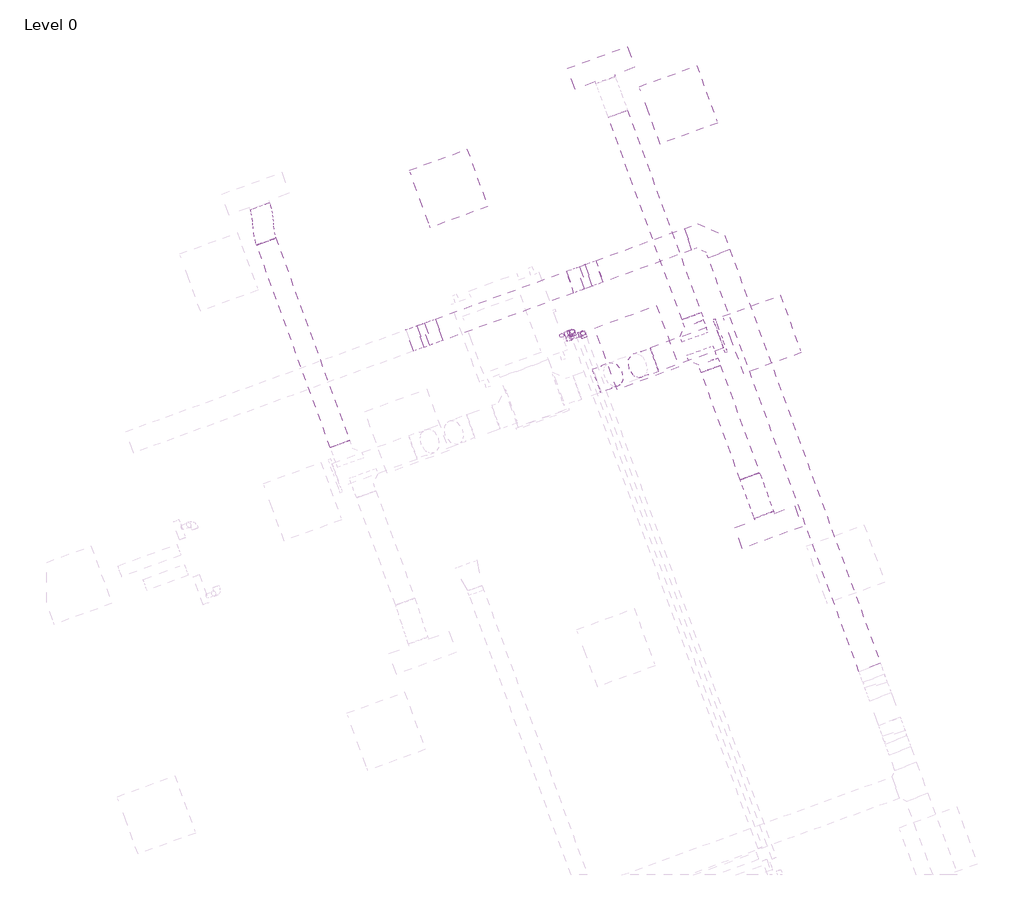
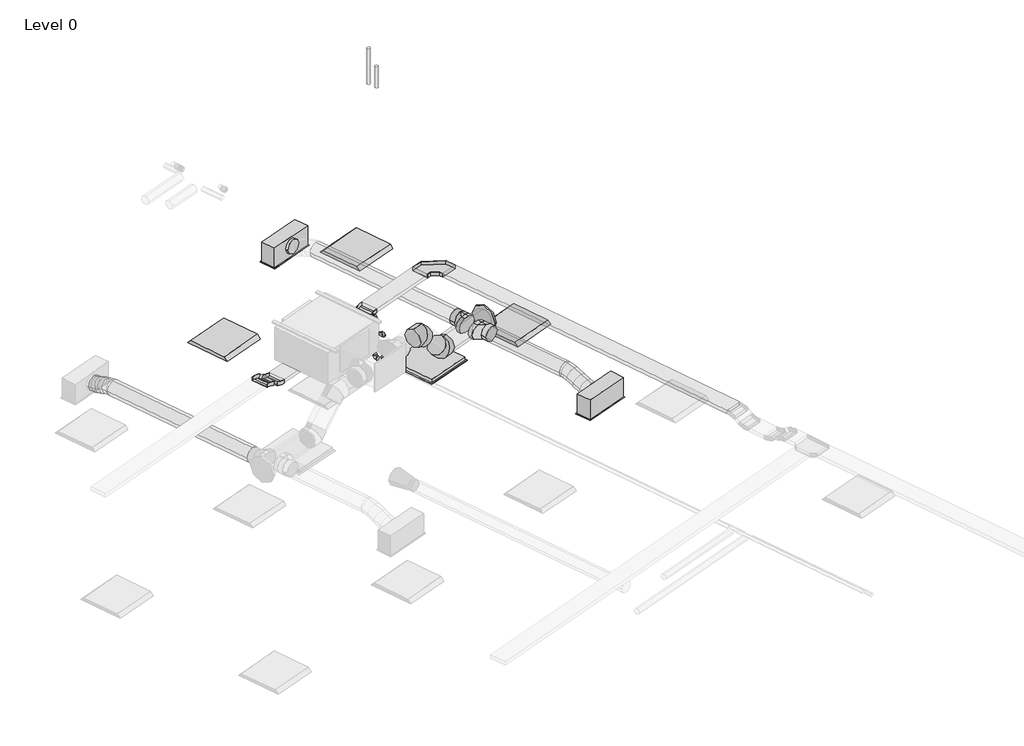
# One storey, part 33 of 34: 6 duct segments, 6 pipe fittings, 6 pipe segments, 5 cable carrier fittings, 5 cable carrier segments, 5 duct fittings, 3 air terminals, 3 light fixtures.
"""IFC4 building model written with IfcOpenShell, lengths in millimetres."""

from ifc_helpers import new_model, si_unit, point, frame, frame_2d, origin, place, context, project, spatial, polyline, circle_curve, ellipse_curve, trimmed, segment, composite_curve, outline, extrude, transform, mapped, element, save
from ifc_brep_helpers import plane_surface, cylinder_surface, advanced_brep
from components import return_grille_rectangular_hosted_standard_7b12617c, supply_diffuser_with_plenum_linear_slot_hosted_8c379eed, cable_tray_horizontal_bend_standard_fd552271, cable_tray_vertical_inside_bend_standard_9a66f55b, cable_tray_vertical_outside_bend_standard_4df2047e, dw144_round_blank_end_standard_e3d0b58b, dw144_round_segmented_bend_slip_joint_standard_636bd9c1, dw144_round_shoe_branch_slip_joint1_standard_2_15a2edd8, light_fixture_1c7c1157, light_fixture_b730b5ca, elbow_threaded_gmi_standard_b4aa7741, socket_reducing_threaded_gmi_standard_0a4076b8

model = new_model("IFC4")

# Units and contexts
model_context = context("Model", 3, world=origin())
ifc_project = project(units=[si_unit("LENGTHUNIT", "METRE", prefix="MILLI")], contexts=[model_context])

# Site, building, storey
site = spatial("IfcSite", under=ifc_project)
building = spatial("IfcBuilding", under=site)
storey = spatial("IfcBuildingStorey", under=building, Name="Level 0", Elevation=0.0)

# Air terminals
placement = place(None, origin())
return_grille_rectangular_hosted_standard_shape = return_grille_rectangular_hosted_standard_7b12617c(model_context)
element("IfcAirTerminal", 1, ObjectType="Return Grille - Rectangular - Hosted : Standard", at=placement, inside=storey, context=model_context, shape_type="MappedRepresentation", body=[
    mapped(return_grille_rectangular_hosted_standard_shape, transform((59670.7999959, 22099.2481143, 2800.0), x_axis=(0.939692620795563, 0.34202014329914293, 0.0), y_axis=(0.34202014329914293, -0.939692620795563, 0.0), z_axis=(0.0, 0.0, -1.0))),
])
supply_diffuser_with_plenum_linear_slot_hosted_shape = supply_diffuser_with_plenum_linear_slot_hosted_8c379eed(model_context)
element("IfcAirTerminal", 2, ObjectType="Supply Diffuser with Plenum - Linear Slot - Hosted : 24\" x 8\"-200 In Inlet  4-Slot", at=placement, inside=storey, context=model_context, shape_type="MappedRepresentation", body=[
    mapped(supply_diffuser_with_plenum_linear_slot_hosted_shape, transform((59322.1555846, 24845.631912, 2800.0), x_axis=(-0.9396926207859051, -0.3420201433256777, 0.0), y_axis=(-0.3420201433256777, 0.9396926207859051, 0.0), z_axis=(0.0, 0.0, -1.0))),
])
element("IfcAirTerminal", 3, ObjectType="Supply Diffuser with Plenum - Linear Slot - Hosted : 24\" x 8\"-200 In Inlet  4-Slot", at=placement, inside=storey, context=model_context, shape_type="MappedRepresentation", body=[
    mapped(supply_diffuser_with_plenum_linear_slot_hosted_shape, transform((60963.8522726, 20335.1073322, 2800.0), x_axis=(0.939692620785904, 0.342020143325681, 0.0), y_axis=(0.342020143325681, -0.939692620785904, 0.0), z_axis=(0.0, 0.0, -1.0))),
])

# Cable carrier fittings
cable_tray_horizontal_bend_standard_shape = cable_tray_horizontal_bend_standard_fd552271(model_context)
element("IfcCableCarrierFitting", 4, ObjectType="Cable Tray Horizontal Bend : Standard", at=placement, inside=storey, context=model_context, shape_type="MappedRepresentation", body=[
    mapped(cable_tray_horizontal_bend_standard_shape, transform((60397.5181523, 23244.3261172, 3248.9627355), x_axis=(-0.3420201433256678, 0.9396926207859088, 0.0), y_axis=(-0.9396926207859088, -0.3420201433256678, 0.0), z_axis=(0.0, 0.0, 1.0))),
])
cable_tray_vertical_inside_bend_standard_shape = cable_tray_vertical_inside_bend_standard_9a66f55b(model_context)
element("IfcCableCarrierFitting", 5, ObjectType="Cable Tray Vertical Inside Bend : Standard", at=placement, inside=storey, context=model_context, shape_type="MappedRepresentation", body=[
    mapped(cable_tray_vertical_inside_bend_standard_shape, transform((59079.7468169, 22764.6965755, 3148.9627355), x_axis=(0.9396926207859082, 0.34202014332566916, 0.0), y_axis=(0.0, 0.0, 1.0), z_axis=(0.34202014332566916, -0.9396926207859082, 0.0))),
])
element("IfcCableCarrierFitting", 6, ObjectType="Cable Tray Vertical Inside Bend : Standard", at=placement, inside=storey, context=model_context, shape_type="MappedRepresentation", body=[
    mapped(cable_tray_vertical_inside_bend_standard_shape, transform((57668.2710843, 22250.9614225, 3148.9627355), x_axis=(0.8137976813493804, 0.2961981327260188, -0.4999999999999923), y_axis=(0.46984631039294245, 0.1710100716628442, 0.8660254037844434), z_axis=(0.34202014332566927, -0.9396926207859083, 0.0))),
])
cable_tray_vertical_outside_bend_standard_shape = cable_tray_vertical_outside_bend_standard_4df2047e(model_context)
element("IfcCableCarrierFitting", 7, ObjectType="Cable Tray Vertical Outside Bend : Standard", at=placement, inside=storey, context=model_context, shape_type="MappedRepresentation", body=[
    mapped(cable_tray_vertical_outside_bend_standard_shape, transform((59242.5063531, 22823.9362021, 3248.9627355), x_axis=(-0.939692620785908, -0.34202014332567, 0.0), y_axis=(0.0, 0.0, -1.0000000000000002), z_axis=(0.34202014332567, -0.939692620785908, 0.0))),
])
element("IfcCableCarrierFitting", 8, ObjectType="Cable Tray Vertical Outside Bend : Standard", at=placement, inside=storey, context=model_context, shape_type="MappedRepresentation", body=[
    mapped(cable_tray_vertical_outside_bend_standard_shape, transform((57505.5115481, 22191.721796, 3248.9627355), x_axis=(-0.8137976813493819, -0.2961981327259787, 0.5000000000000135), y_axis=(-0.46984631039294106, -0.17101007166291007, -0.866025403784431), z_axis=(0.34202014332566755, -0.9396926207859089, 0.0))),
])

# Cable carrier segments
element("IfcCableCarrierSegment", 9, ObjectType="Perforated Cable Tray", at=placement, inside=storey, context=model_context, shape_type="SweptSolid", body=[
    extrude(outline(polyline([(62063.4626623, 18996.1091889), (61852.0318226, 18919.1546567), (60373.0325165, 22982.6718536), (60584.4633562, 23059.6263859), (62063.4626623, 18996.1091889)])), frame((0.0, 0.0, 3223.9627355), z_axis=(0.0, 0.0, 1.0), x_axis=(1.0, 0.0, 0.0)), (0.0, 0.0, 1.0), 50.0),
])
element("IfcCableCarrierSegment", 10, ObjectType="Perforated Cable Tray", at=placement, inside=storey, context=model_context, shape_type="SweptSolid", body=[
    extrude(outline(polyline([(60135.8638887, 23268.811753), (60212.818421, 23057.3809133), (59343.931089, 22741.1317875), (59266.9765567, 22952.5626272), (60135.8638887, 23268.811753)])), frame((0.0, 0.0, 3223.9627355), z_axis=(0.0, 0.0, 1.0), x_axis=(1.0, 0.0, 0.0)), (0.0, 0.0, 1.0), 50.0),
])
element("IfcCableCarrierSegment", 11, ObjectType="Perforated Cable Tray", at=placement, inside=storey, context=model_context, shape_type="SweptSolid", body=[
    extrude(outline(polyline([(0.0, -225.0), (0.0, 0.0), (66.0254038, 0.0), (66.0254037, -225.0), (0.0, -225.0)])), frame((59238.2156691, 22702.6545214, 3193.8184513), z_axis=(-0.46984631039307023, -0.1710100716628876, 0.8660254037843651), x_axis=(-0.8137976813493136, -0.29619813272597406, -0.5000000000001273)), (0.0, 0.0, 1.0), 50.0),
])
element("IfcCableCarrierSegment", 12, ObjectType="Perforated Cable Tray", at=placement, inside=storey, context=model_context, shape_type="SweptSolid", body=[
    extrude(outline(polyline([(58978.322081, 22847.5009901), (59055.2766133, 22636.0701504), (57769.6958202, 22168.157008), (57692.7412879, 22379.5878476), (58978.322081, 22847.5009901)])), frame((0.0, 0.0, 3123.9627355), z_axis=(0.0, 0.0, 1.0), x_axis=(1.0, 0.0, 0.0)), (0.0, 0.0, 1.0), 50.0),
])
element("IfcCableCarrierSegment", 13, ObjectType="Perforated Cable Tray", at=placement, inside=storey, context=model_context, shape_type="SweptSolid", body=[
    extrude(outline(polyline([(0.0, -224.9999999), (0.0, 0.0), (66.0254038, 1e-07), (66.0254038, -224.9999999), (0.0, -224.9999999)])), frame((57640.4880848, 22121.1292383, 3160.8057494), z_axis=(0.4698463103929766, 0.17101007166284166, 0.8660254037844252), x_axis=(-0.8137976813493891, -0.29619813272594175, 0.5000000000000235)), (0.0, 0.0, 1.0), 50.0),
])

# Duct fittings
dw144_round_blank_end_standard_shape = dw144_round_blank_end_standard_e3d0b58b(model_context)
element("IfcDuctFitting", 14, ObjectType="DW144 Round Blank End : Standard", at=placement, inside=storey, context=model_context, shape_type="MappedRepresentation", body=[
    mapped(dw144_round_blank_end_standard_shape, transform((60480.1698786, 22212.391139, 3072.2088531), x_axis=(0.9396926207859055, 0.3420201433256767, 0.0), y_axis=(-0.3420201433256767, 0.9396926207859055, 0.0), z_axis=(0.0, 0.0, 1.0))),
])
dw144_round_segmented_bend_slip_joint_standard_shape = dw144_round_segmented_bend_slip_joint_standard_636bd9c1(model_context)
element("IfcDuctFitting", 15, ObjectType="DW144 Round Segmented Bend - Slip Joint : Standard", at=placement, inside=storey, context=model_context, shape_type="MappedRepresentation", body=[
    mapped(dw144_round_segmented_bend_slip_joint_standard_shape, transform((59747.3782824, 21945.6768101, 3072.2088531), x_axis=(0.6644630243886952, 0.24184476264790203, -0.7071067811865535), y_axis=(0.6644630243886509, 0.2418447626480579, 0.7071067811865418), z_axis=(0.3420201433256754, -0.939692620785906, 0.0))),
])
element("IfcDuctFitting", 16, ObjectType="DW144 Round Segmented Bend - Slip Joint : Standard", at=placement, inside=storey, context=model_context, shape_type="MappedRepresentation", body=[
    mapped(dw144_round_segmented_bend_slip_joint_standard_shape, transform((59373.9762464, 21809.7695836, 3469.575), x_axis=(0.9396926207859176, 0.3420201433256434, 0.0), y_axis=(0.0, 0.0, -1.0), z_axis=(-0.3420201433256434, 0.9396926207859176, 0.0))),
])
dw144_round_shoe_branch_slip_joint1_standard_2_shape = dw144_round_shoe_branch_slip_joint1_standard_2_15a2edd8(model_context)
element("IfcDuctFitting", 17, ObjectType="DW144 Round Shoe Branch - Slip Joint1 : Standard 2", at=placement, inside=storey, context=model_context, shape_type="MappedRepresentation", body=[
    mapped(dw144_round_shoe_branch_slip_joint1_standard_2_shape, transform((60261.1722773, 22265.7047523, 3072.2088531), x_axis=(-0.3420201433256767, 0.9396926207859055, 0.0), y_axis=(0.9396926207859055, 0.3420201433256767, 0.0), z_axis=(0.0, 0.0, -1.0))),
])
element("IfcDuctFitting", 18, ObjectType="DW144 Round Shoe Branch - Slip Joint1 : Standard 2", at=placement, inside=storey, context=model_context, shape_type="MappedRepresentation", body=[
    mapped(dw144_round_shoe_branch_slip_joint1_standard_2_shape, transform((60346.6773131, 22030.7815971, 3072.2088531), x_axis=(0.3420201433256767, -0.9396926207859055, 0.0), y_axis=(0.9396926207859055, 0.3420201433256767, 0.0), z_axis=(0.0, 0.0, 1.0))),
])

# Duct segments
element("IfcDuctSegment", 19, ObjectType="DW144 Segmented Bend / Shoe Branch", at=placement, inside=storey, context=model_context, shape_type="SweptSolid", body=[
    extrude(outline(composite_curve([segment(trimmed(circle_curve(frame_2d((0.0, -125.0)), 125.0), [point((-125.0, -125.0))], [point((0.0, 0.0))], False, "CARTESIAN"), True, "CONTINUOUS"), segment(trimmed(circle_curve(frame_2d((0.0, -125.0)), 125.0), [point((0.0, 0.0))], [point((125.0, -125.0))], False, "CARTESIAN"), True, "CONTINUOUS"), segment(trimmed(circle_curve(frame_2d((0.0, -125.0)), 125.0), [point((125.0, -125.0))], [point((0.0, -250.0))], False, "CARTESIAN"), True, "CONTINUOUS"), segment(trimmed(circle_curve(frame_2d((0.0, -125.0)), 125.0), [point((0.0, -250.0))], [point((-125.0, -125.0))], False, "CARTESIAN"), True, "CONTINUOUS")], self_intersect=False)), frame((59844.6866394, 21981.0941556, 2947.2088531), z_axis=(0.9396926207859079, 0.3420201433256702, 0.0), x_axis=(0.3420201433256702, -0.9396926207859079, 0.0)), (0.0, 0.0, 1.0), 676.267138),
])
element("IfcDuctSegment", 20, ObjectType="DW144 Segmented Bend / Shoe Branch", at=placement, inside=storey, context=model_context, shape_type="SweptSolid", body=[
    extrude(outline(composite_curve([segment(trimmed(circle_curve(frame_2d((0.0, 100.0)), 100.0), [point((100.0, 100.0))], [point((0.0, 0.0))], False, "CARTESIAN"), True, "CONTINUOUS"), segment(trimmed(circle_curve(frame_2d((0.0, 100.0)), 100.0), [point((0.0, 0.0))], [point((-100.0, 100.0))], False, "CARTESIAN"), True, "CONTINUOUS"), segment(trimmed(circle_curve(frame_2d((0.0, 100.0)), 100.0), [point((-100.0, 100.0))], [point((0.0, 200.0))], False, "CARTESIAN"), True, "CONTINUOUS"), segment(trimmed(circle_curve(frame_2d((0.0, 100.0)), 100.0), [point((0.0, 200.0))], [point((100.0, 100.0))], False, "CARTESIAN"), True, "CONTINUOUS")], self_intersect=False)), frame((60209.8692558, 22406.6586454, 3172.2088531), z_axis=(-0.3420201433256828, 0.9396926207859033, 0.0), x_axis=(0.9396926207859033, 0.3420201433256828, 0.0)), (0.0, 0.0, 1.0), 2117.1993191),
])
element("IfcDuctSegment", 21, ObjectType="DW144 Segmented Bend / Shoe Branch", at=placement, inside=storey, context=model_context, shape_type="SweptSolid", body=[
    extrude(outline(composite_curve([segment(trimmed(circle_curve(frame_2d((0.0, -100.0)), 100.0), [point((-99.9999999, -100.0))], [point((0.0, 0.0))], False, "CARTESIAN"), True, "CONTINUOUS"), segment(trimmed(circle_curve(frame_2d((0.0, -100.0)), 100.0), [point((0.0, 0.0))], [point((100.0, -100.0))], False, "CARTESIAN"), True, "CONTINUOUS"), segment(trimmed(circle_curve(frame_2d((0.0, -100.0)), 100.0), [point((100.0, -100.0))], [point((0.0, -200.0))], False, "CARTESIAN"), True, "CONTINUOUS"), segment(trimmed(circle_curve(frame_2d((0.0, -100.0)), 100.0), [point((0.0, -200.0))], [point((-99.9999999, -100.0))], False, "CARTESIAN"), True, "CONTINUOUS")], self_intersect=False)), frame((60782.0007844, 20834.7401896, 2972.2088531), z_axis=(-0.3420201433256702, 0.9396926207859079, 0.0), x_axis=(0.9396926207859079, 0.3420201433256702, 0.0)), (0.0, 0.0, 1.0), 1122.8006809),
])
element("IfcDuctSegment", 22, ObjectType="DW144 Segmented Bend / Shoe Branch", at=placement, inside=storey, context=model_context, shape_type="SweptSolid", body=[
    extrude(outline(composite_curve([segment(trimmed(circle_curve(frame_2d((0.0, -100.0)), 100.0), [point((-100.0, -100.0))], [point((0.0, 0.0))], False, "CARTESIAN"), True, "CONTINUOUS"), segment(trimmed(circle_curve(frame_2d((0.0, -100.0)), 100.0), [point((0.0, 0.0))], [point((99.9999999, -100.0))], False, "CARTESIAN"), True, "CONTINUOUS"), segment(trimmed(circle_curve(frame_2d((0.0, -100.0)), 100.0), [point((99.9999999, -100.0))], [point((0.0, -200.0))], False, "CARTESIAN"), True, "CONTINUOUS"), segment(trimmed(circle_curve(frame_2d((0.0, -100.0)), 100.0), [point((0.0, -200.0))], [point((-100.0, -100.0))], False, "CARTESIAN"), True, "CONTINUOUS")], self_intersect=False)), frame((56758.4236669, 21150.4351859, 2972.2088531), z_axis=(-0.3420201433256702, 0.9396926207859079, 0.0), x_axis=(0.9396926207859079, 0.3420201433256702, 0.0)), (0.0, 0.0, 1.0), 2117.1993191),
])
element("IfcDuctSegment", 23, ObjectType="Flex - Round", at=placement, inside=storey, context=model_context, shape_type="AdvancedBrep", body=[
    advanced_brep(
    [(60875.9700465, 20868.9422039, 3072.2088531), (60782.0007844, 20834.7401896, 2972.2088531), (60688.0315224, 20800.5381753, 3072.2088531), (60782.0007844, 20834.7401896, 3172.2088531), (60882.0280653, 20852.2979342, 3072.2088531), (60784.3796055, 20828.2044324, 2972.2088531), (60694.0895411, 20783.8939055, 3072.2088531), (60791.7380009, 20807.9874073, 3172.2088531), (61013.7351382, 20490.4357254, 2954.4), (60919.7658761, 20456.233711, 3054.4), (60825.796614, 20422.0316967, 2954.4), (60919.7658761, 20456.233711, 2854.4), (60910.9523954, 20772.8289904, 3053.8012198), (60806.8015614, 20766.600615, 2957.9393734), (60723.0138712, 20704.4249618, 3053.8012198), (60827.1647052, 20710.6533371, 3149.6630662), (60944.8525924, 20679.6889646, 3013.3044266), (60837.9473613, 20681.0282329, 2920.7329518), (60756.9140682, 20611.284936, 3013.3044266), (60863.8192992, 20609.9456677, 3105.8759013), (60978.7527894, 20586.5489389, 2972.8076333), (60874.6019553, 20580.3205635, 2876.9457869), (60790.8142652, 20518.1449102, 2972.8076333), (60894.9650992, 20524.3732856, 3068.6694797), (61007.6771194, 20507.0799951, 2954.4), (60910.0286597, 20482.9864933, 2854.4), (60819.7385953, 20438.6759664, 2954.4), (60917.387055, 20462.7694682, 3054.4)],
    [
        (0, 1, circle_curve(frame((60782.0007844, 20834.7401896, 3072.2088531), z_axis=(-0.3420201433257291, 0.9396926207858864, 0.0), x_axis=(0.9396926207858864, 0.3420201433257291, 0.0)), 100.0)),
        (1, 2, circle_curve(frame((60782.0007844, 20834.7401896, 3072.2088531), z_axis=(-0.3420201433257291, 0.9396926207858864, 0.0), x_axis=(0.9396926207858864, 0.3420201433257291, 0.0)), 100.0)),
        (2, 3, circle_curve(frame((60782.0007844, 20834.7401896, 3072.2088531), z_axis=(-0.3420201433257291, 0.9396926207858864, 0.0), x_axis=(0.9396926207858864, 0.3420201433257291, 0.0)), 100.0)),
        (3, 0, circle_curve(frame((60782.0007844, 20834.7401896, 3072.2088531), z_axis=(-0.3420201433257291, 0.9396926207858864, 0.0), x_axis=(0.9396926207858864, 0.3420201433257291, 0.0)), 100.0)),
        (0, 4),
        (4, 5, ellipse_curve(frame((60788.0588032, 20818.0959199, 3072.2088531), z_axis=(-0.34005825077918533, 0.9343023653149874, 0.1069554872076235), x_axis=(-0.03658093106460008, 0.10050528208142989, -0.9942638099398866)), 100.5769284, 100.0)),
        (5, 1),
        (5, 6, ellipse_curve(frame((60788.0588032, 20818.0959199, 3072.2088531), z_axis=(-0.34005825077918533, 0.9343023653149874, 0.1069554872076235), x_axis=(-0.03658093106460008, 0.10050528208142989, -0.9942638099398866)), 100.5769284, 100.0)),
        (6, 2),
        (6, 7, ellipse_curve(frame((60788.0588032, 20818.0959199, 3072.2088531), z_axis=(-0.34005825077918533, 0.9343023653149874, 0.1069554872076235), x_axis=(-0.03658093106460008, 0.10050528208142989, -0.9942638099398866)), 100.5769284, 100.0)),
        (7, 3),
        (7, 4, ellipse_curve(frame((60788.0588032, 20818.0959199, 3072.2088531), z_axis=(-0.34005825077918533, 0.9343023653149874, 0.1069554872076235), x_axis=(-0.03658093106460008, 0.10050528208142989, -0.9942638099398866)), 100.5769284, 100.0)),
        (8, 9, circle_curve(frame((60919.7658761, 20456.233711, 2954.4), z_axis=(0.3420201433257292, -0.9396926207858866, 0.0), x_axis=(0.9396926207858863, 0.34202014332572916, 0.0)), 100.0)),
        (9, 10, circle_curve(frame((60919.7658761, 20456.233711, 2954.4), z_axis=(0.3420201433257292, -0.9396926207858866, 0.0), x_axis=(0.9396926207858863, 0.34202014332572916, 0.0)), 100.0)),
        (10, 11, circle_curve(frame((60919.7658761, 20456.233711, 2954.4), z_axis=(0.3420201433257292, -0.9396926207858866, 0.0), x_axis=(0.9396926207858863, 0.34202014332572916, 0.0)), 100.0)),
        (11, 8, circle_curve(frame((60919.7658761, 20456.233711, 2954.4), z_axis=(0.3420201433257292, -0.9396926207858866, 0.0), x_axis=(0.9396926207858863, 0.34202014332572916, 0.0)), 100.0)),
        (4, 12),
        (12, 13, ellipse_curve(frame((60816.9831333, 20738.6269761, 3053.8012198), z_axis=(-0.32663313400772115, 0.897417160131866, 0.2965691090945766), x_axis=(-0.10143260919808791, 0.2786838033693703, -0.9550113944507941)), 100.3776991, 100.0)),
        (13, 5),
        (13, 14, ellipse_curve(frame((60816.9831333, 20738.6269761, 3053.8012198), z_axis=(-0.32663313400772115, 0.897417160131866, 0.2965691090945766), x_axis=(-0.10143260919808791, 0.2786838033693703, -0.9550113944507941)), 100.3776991, 100.0)),
        (14, 6),
        (14, 15, ellipse_curve(frame((60816.9831333, 20738.6269761, 3053.8012198), z_axis=(-0.32663313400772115, 0.897417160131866, 0.2965691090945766), x_axis=(-0.10143260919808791, 0.2786838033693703, -0.9550113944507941)), 100.3776991, 100.0)),
        (15, 7),
        (15, 12, ellipse_curve(frame((60816.9831333, 20738.6269761, 3053.8012198), z_axis=(-0.32663313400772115, 0.897417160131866, 0.2965691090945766), x_axis=(-0.10143260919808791, 0.2786838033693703, -0.9550113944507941)), 100.3776991, 100.0)),
        (12, 16),
        (16, 17, circle_curve(frame((60850.8833303, 20645.4869503, 3013.3044266), z_axis=(-0.31661309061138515, 0.8698873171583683, 0.3782224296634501), x_axis=(0.939692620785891, 0.34202014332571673, 0.0)), 100.0)),
        (17, 13),
        (17, 18, circle_curve(frame((60850.8833303, 20645.4869503, 3013.3044266), z_axis=(-0.31661309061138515, 0.8698873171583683, 0.3782224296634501), x_axis=(0.939692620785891, 0.34202014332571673, 0.0)), 100.0)),
        (18, 14),
        (18, 19, circle_curve(frame((60850.8833303, 20645.4869503, 3013.3044266), z_axis=(-0.31661309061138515, 0.8698873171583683, 0.3782224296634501), x_axis=(0.939692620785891, 0.34202014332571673, 0.0)), 100.0)),
        (19, 15),
        (19, 16, circle_curve(frame((60850.8833303, 20645.4869503, 3013.3044266), z_axis=(-0.31661309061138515, 0.8698873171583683, 0.3782224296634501), x_axis=(0.939692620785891, 0.34202014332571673, 0.0)), 100.0)),
        (16, 20),
        (20, 21, ellipse_curve(frame((60884.7835273, 20552.3469245, 2972.8076333), z_axis=(-0.3266331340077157, 0.897417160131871, 0.29656910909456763), x_axis=(0.10143260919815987, -0.2786838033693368, 0.9550113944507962)), 100.3776991, 100.0)),
        (21, 17),
        (21, 22, ellipse_curve(frame((60884.7835273, 20552.3469245, 2972.8076333), z_axis=(-0.3266331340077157, 0.897417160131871, 0.29656910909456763), x_axis=(0.10143260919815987, -0.2786838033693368, 0.9550113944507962)), 100.3776991, 100.0)),
        (22, 18),
        (22, 23, ellipse_curve(frame((60884.7835273, 20552.3469245, 2972.8076333), z_axis=(-0.3266331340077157, 0.897417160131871, 0.29656910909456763), x_axis=(0.10143260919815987, -0.2786838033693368, 0.9550113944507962)), 100.3776991, 100.0)),
        (23, 19),
        (23, 20, ellipse_curve(frame((60884.7835273, 20552.3469245, 2972.8076333), z_axis=(-0.3266331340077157, 0.897417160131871, 0.29656910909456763), x_axis=(0.10143260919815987, -0.2786838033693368, 0.9550113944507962)), 100.3776991, 100.0)),
        (20, 24),
        (24, 25, ellipse_curve(frame((60913.7078574, 20472.8779808, 2954.4), z_axis=(-0.3400582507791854, 0.9343023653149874, 0.10695548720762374), x_axis=(0.03658093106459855, -0.10050528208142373, 0.9942638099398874)), 100.5769284, 100.0)),
        (25, 21),
        (25, 26, ellipse_curve(frame((60913.7078574, 20472.8779808, 2954.4), z_axis=(-0.3400582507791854, 0.9343023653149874, 0.10695548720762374), x_axis=(0.03658093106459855, -0.10050528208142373, 0.9942638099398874)), 100.5769284, 100.0)),
        (26, 22),
        (26, 27, ellipse_curve(frame((60913.7078574, 20472.8779808, 2954.4), z_axis=(-0.3400582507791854, 0.9343023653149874, 0.10695548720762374), x_axis=(0.03658093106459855, -0.10050528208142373, 0.9942638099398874)), 100.5769284, 100.0)),
        (27, 23),
        (27, 24, ellipse_curve(frame((60913.7078574, 20472.8779808, 2954.4), z_axis=(-0.3400582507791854, 0.9343023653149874, 0.10695548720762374), x_axis=(0.03658093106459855, -0.10050528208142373, 0.9942638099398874)), 100.5769284, 100.0)),
        (24, 8),
        (11, 25),
        (10, 26),
        (9, 27),
    ],
    [
        plane_surface(frame((60782.0007844, 20834.7401896, 2972.2088531), z_axis=(-0.3420201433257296, 0.9396926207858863, 0.0), x_axis=(0.9396926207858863, 0.3420201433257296, 0.0))),
        cylinder_surface(frame((60782.0007844, 20834.7401896, 3072.2088531), z_axis=(-0.3420201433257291, 0.9396926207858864, 0.0), x_axis=(0.9396926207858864, 0.3420201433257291, 0.0)), 100.0),
        plane_surface(frame((60919.7658761, 20456.233711, 2854.4), z_axis=(0.3420201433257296, -0.9396926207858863, 0.0), x_axis=(0.9396926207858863, 0.3420201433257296, 0.0))),
        cylinder_surface(frame((60788.0588032, 20818.0959199, 3072.2088531), z_axis=(-0.3341950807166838, 0.9181934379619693, 0.21268394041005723), x_axis=(0.9396926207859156, 0.342020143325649, 0.0)), 100.0),
        cylinder_surface(frame((60816.9831333, 20738.6269761, 3053.8012198), z_axis=(-0.31661309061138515, 0.8698873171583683, 0.3782224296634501), x_axis=(0.939692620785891, 0.34202014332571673, 0.0)), 100.0),
        cylinder_surface(frame((60850.8833303, 20645.4869503, 3013.3044266), z_axis=(-0.3166130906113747, 0.8698873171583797, 0.37822242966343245), x_axis=(0.9396926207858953, 0.3420201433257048, 0.0)), 100.0),
        cylinder_surface(frame((60884.7835273, 20552.3469245, 2972.8076333), z_axis=(-0.3341950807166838, 0.9181934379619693, 0.21268394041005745), x_axis=(0.9396926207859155, 0.3420201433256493, 0.0)), 100.0),
        cylinder_surface(frame((60913.7078574, 20472.8779808, 2954.4), z_axis=(-0.34202014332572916, 0.9396926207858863, 0.0), x_axis=(0.9396926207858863, 0.34202014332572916, 0.0)), 100.0),
    ],
    [
        (0, [[1, 2, 3, 4]]),
        (1, [[-1, 5, 6, 7]]),
        (1, [[-2, -7, 8, 9]]),
        (1, [[-3, -9, 10, 11]]),
        (1, [[-4, -11, 12, -5]]),
        (2, [[13, 14, 15, 16]]),
        (3, [[-6, 17, 18, 19]]),
        (3, [[-8, -19, 20, 21]]),
        (3, [[-10, -21, 22, 23]]),
        (3, [[-12, -23, 24, -17]]),
        (4, [[-18, 25, 26, 27]]),
        (4, [[-20, -27, 28, 29]]),
        (4, [[-22, -29, 30, 31]]),
        (4, [[-24, -31, 32, -25]]),
        (5, [[-26, 33, 34, 35]]),
        (5, [[-28, -35, 36, 37]]),
        (5, [[-30, -37, 38, 39]]),
        (5, [[-32, -39, 40, -33]]),
        (6, [[-34, 41, 42, 43]]),
        (6, [[-36, -43, 44, 45]]),
        (6, [[-38, -45, 46, 47]]),
        (6, [[-40, -47, 48, -41]]),
        (7, [[-42, 49, -16, 50]]),
        (7, [[-44, -50, -15, 51]]),
        (7, [[-46, -51, -14, 52]]),
        (7, [[-48, -52, -13, -49]]),
    ],
),
])
element("IfcDuctSegment", 24, ObjectType="Flex - Round", at=placement, inside=storey, context=model_context, shape_type="AdvancedBrep", body=[
    advanced_brep(
    [(55940.3295902, 23105.7497485, 3072.2088531), (56034.2988523, 23139.9517628, 2972.2088531), (56128.2681143, 23174.1537771, 3072.2088531), (56034.2988523, 23139.9517628, 3172.2088531), (55932.6991352, 23126.7142514, 3072.2088531), (56032.3145452, 23145.4036018, 2972.2088531), (56124.5004429, 23184.5053694, 3072.2088531), (56024.8850329, 23165.816019, 3172.2088531), (55878.3848809, 23455.0293673, 2954.4), (55972.354143, 23489.2313817, 3054.4), (56066.3234051, 23523.433396, 2954.4), (55972.354143, 23489.2313817, 2854.4), (55917.3295771, 23190.9348996, 3057.7411781), (56023.8255964, 23180.8740941, 2964.2180345), (56113.8382189, 23229.0567437, 3062.1722867), (56007.3421996, 23239.1175493, 3155.6954303), (55907.3100581, 23266.6974316, 3026.0114711), (56016.126005, 23239.0945077, 2939.8350497), (56105.4058666, 23292.8179241, 3035.4688025), (55996.5899197, 23320.4208481, 3121.645224), (55901.2471286, 23336.3652203, 2991.1400506), (56010.0630756, 23308.7622964, 2904.9636291), (56099.3429372, 23362.4857128, 3000.597382), (55990.5269903, 23390.0886367, 3086.7738035), (55892.8147764, 23400.1264007, 2964.4365665), (55999.3107957, 23390.0655952, 2870.9134228), (56089.3234182, 23438.2482449, 2968.867675), (55982.8273989, 23448.3090504, 3062.3908187), (55882.1525524, 23444.6777751, 2954.4), (55981.7679624, 23463.3671255, 2854.4), (56073.9538601, 23502.4688931, 2954.4), (55974.3384501, 23483.7795427, 3054.4)],
    [
        (0, 1, circle_curve(frame((56034.2988523, 23139.9517628, 3072.2088531), z_axis=(0.34202014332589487, -0.9396926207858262, 0.0), x_axis=(-0.9396926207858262, -0.34202014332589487, 0.0)), 100.0)),
        (1, 2, circle_curve(frame((56034.2988523, 23139.9517628, 3072.2088531), z_axis=(0.34202014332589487, -0.9396926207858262, 0.0), x_axis=(-0.9396926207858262, -0.34202014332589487, 0.0)), 100.0)),
        (2, 3, circle_curve(frame((56034.2988523, 23139.9517628, 3072.2088531), z_axis=(0.34202014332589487, -0.9396926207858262, 0.0), x_axis=(-0.9396926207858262, -0.34202014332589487, 0.0)), 100.0)),
        (3, 0, circle_curve(frame((56034.2988523, 23139.9517628, 3072.2088531), z_axis=(0.34202014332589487, -0.9396926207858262, 0.0), x_axis=(-0.9396926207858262, -0.34202014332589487, 0.0)), 100.0)),
        (0, 4),
        (4, 5, ellipse_curve(frame((56028.599789, 23155.6098104, 3072.2088531), z_axis=(0.2868145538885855, -0.9519007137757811, 0.10780743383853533), x_axis=(0.4718263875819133, 0.04242446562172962, -0.8806702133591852)), 100.746488, 100.0)),
        (5, 1),
        (5, 6, ellipse_curve(frame((56028.599789, 23155.6098104, 3072.2088531), z_axis=(0.2868145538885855, -0.9519007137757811, 0.10780743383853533), x_axis=(0.4718263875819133, 0.04242446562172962, -0.8806702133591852)), 100.746488, 100.0)),
        (6, 2),
        (6, 7, ellipse_curve(frame((56028.599789, 23155.6098104, 3072.2088531), z_axis=(0.2868145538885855, -0.9519007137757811, 0.10780743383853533), x_axis=(0.4718263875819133, 0.04242446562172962, -0.8806702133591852)), 100.746488, 100.0)),
        (7, 3),
        (7, 4, ellipse_curve(frame((56028.599789, 23155.6098104, 3072.2088531), z_axis=(0.2868145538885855, -0.9519007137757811, 0.10780743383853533), x_axis=(0.4718263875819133, 0.04242446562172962, -0.8806702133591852)), 100.746488, 100.0)),
        (8, 9, circle_curve(frame((55972.354143, 23489.2313817, 2954.4), z_axis=(-0.34202014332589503, 0.9396926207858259, 0.0), x_axis=(-0.9396926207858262, -0.3420201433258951, 0.0)), 100.0)),
        (9, 10, circle_curve(frame((55972.354143, 23489.2313817, 2954.4), z_axis=(-0.34202014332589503, 0.9396926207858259, 0.0), x_axis=(-0.9396926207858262, -0.3420201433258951, 0.0)), 100.0)),
        (10, 11, circle_curve(frame((55972.354143, 23489.2313817, 2954.4), z_axis=(-0.34202014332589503, 0.9396926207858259, 0.0), x_axis=(-0.9396926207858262, -0.3420201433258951, 0.0)), 100.0)),
        (11, 8, circle_curve(frame((55972.354143, 23489.2313817, 2954.4), z_axis=(-0.34202014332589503, 0.9396926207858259, 0.0), x_axis=(-0.9396926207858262, -0.3420201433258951, 0.0)), 100.0)),
        (4, 12),
        (12, 13, ellipse_curve(frame((56015.583898, 23209.9958217, 3059.9567324), z_axis=(0.1751260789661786, -0.9376352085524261, 0.30028498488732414), x_axis=(0.5236540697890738, -0.1695730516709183, -0.8348840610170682)), 100.5188435, 100.0)),
        (13, 5),
        (13, 14, ellipse_curve(frame((56015.583898, 23209.9958217, 3059.9567324), z_axis=(0.1751260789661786, -0.9376352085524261, 0.30028498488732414), x_axis=(0.5236540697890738, -0.1695730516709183, -0.8348840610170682)), 100.5188435, 100.0)),
        (14, 6),
        (14, 15, ellipse_curve(frame((56015.583898, 23209.9958217, 3059.9567324), z_axis=(0.1751260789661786, -0.9376352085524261, 0.30028498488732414), x_axis=(0.5236540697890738, -0.1695730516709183, -0.8348840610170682)), 100.5188435, 100.0)),
        (15, 7),
        (15, 12, ellipse_curve(frame((56015.583898, 23209.9958217, 3059.9567324), z_axis=(0.1751260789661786, -0.9376352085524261, 0.30028498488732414), x_axis=(0.5236540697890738, -0.1695730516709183, -0.8348840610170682)), 100.5188435, 100.0)),
        (12, 16),
        (16, 17, ellipse_curve(frame((56006.3579624, 23279.7576779, 3030.7401368), z_axis=(0.09941622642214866, -0.9042889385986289, 0.4151842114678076), x_axis=(0.5431382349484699, -0.30029372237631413, -0.7841074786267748)), 100.0802707, 100.0)),
        (17, 13),
        (17, 18, ellipse_curve(frame((56006.3579624, 23279.7576779, 3030.7401368), z_axis=(0.09941622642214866, -0.9042889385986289, 0.4151842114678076), x_axis=(0.5431382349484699, -0.30029372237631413, -0.7841074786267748)), 100.0802707, 100.0)),
        (18, 14),
        (18, 19, ellipse_curve(frame((56006.3579624, 23279.7576779, 3030.7401368), z_axis=(0.09941622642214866, -0.9042889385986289, 0.4151842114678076), x_axis=(0.5431382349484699, -0.30029372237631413, -0.7841074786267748)), 100.0802707, 100.0)),
        (19, 15),
        (19, 16, ellipse_curve(frame((56006.3579624, 23279.7576779, 3030.7401368), z_axis=(0.09941622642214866, -0.9042889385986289, 0.4151842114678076), x_axis=(0.5431382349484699, -0.30029372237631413, -0.7841074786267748)), 100.0802707, 100.0)),
        (16, 20),
        (20, 21, ellipse_curve(frame((56000.2950329, 23349.4254666, 2995.8687163), z_axis=(0.09941622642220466, -0.9042889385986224, 0.4151842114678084), x_axis=(-0.543138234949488, 0.3002937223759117, 0.7841074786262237)), 100.0802707, 100.0)),
        (21, 17),
        (21, 22, ellipse_curve(frame((56000.2950329, 23349.4254666, 2995.8687163), z_axis=(0.09941622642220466, -0.9042889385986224, 0.4151842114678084), x_axis=(-0.543138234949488, 0.3002937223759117, 0.7841074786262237)), 100.0802707, 100.0)),
        (22, 18),
        (22, 23, ellipse_curve(frame((56000.2950329, 23349.4254666, 2995.8687163), z_axis=(0.09941622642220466, -0.9042889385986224, 0.4151842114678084), x_axis=(-0.543138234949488, 0.3002937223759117, 0.7841074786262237)), 100.0802707, 100.0)),
        (23, 19),
        (23, 20, ellipse_curve(frame((56000.2950329, 23349.4254666, 2995.8687163), z_axis=(0.09941622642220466, -0.9042889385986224, 0.4151842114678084), x_axis=(-0.543138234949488, 0.3002937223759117, 0.7841074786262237)), 100.0802707, 100.0)),
        (20, 24),
        (24, 25, ellipse_curve(frame((55991.0690973, 23419.1873228, 2966.6521207), z_axis=(0.1751260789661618, -0.93763520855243, 0.3002849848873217), x_axis=(-0.5236540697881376, 0.16957305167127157, 0.8348840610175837)), 100.5188435, 100.0)),
        (25, 21),
        (25, 26, ellipse_curve(frame((55991.0690973, 23419.1873228, 2966.6521207), z_axis=(0.1751260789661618, -0.93763520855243, 0.3002849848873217), x_axis=(-0.5236540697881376, 0.16957305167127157, 0.8348840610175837)), 100.5188435, 100.0)),
        (26, 22),
        (26, 27, ellipse_curve(frame((55991.0690973, 23419.1873228, 2966.6521207), z_axis=(0.1751260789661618, -0.93763520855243, 0.3002849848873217), x_axis=(-0.5236540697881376, 0.16957305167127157, 0.8348840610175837)), 100.5188435, 100.0)),
        (27, 23),
        (27, 24, ellipse_curve(frame((55991.0690973, 23419.1873228, 2966.6521207), z_axis=(0.1751260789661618, -0.93763520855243, 0.3002849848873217), x_axis=(-0.5236540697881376, 0.16957305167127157, 0.8348840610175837)), 100.5188435, 100.0)),
        (24, 28),
        (28, 29, ellipse_curve(frame((55978.0532063, 23473.5733341, 2954.4), z_axis=(0.28681455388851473, -0.9519007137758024, 0.10780743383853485), x_axis=(-0.4718263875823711, -0.042424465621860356, 0.8806702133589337)), 100.746488, 100.0)),
        (29, 25),
        (29, 30, ellipse_curve(frame((55978.0532063, 23473.5733341, 2954.4), z_axis=(0.28681455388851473, -0.9519007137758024, 0.10780743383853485), x_axis=(-0.4718263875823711, -0.042424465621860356, 0.8806702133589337)), 100.746488, 100.0)),
        (30, 26),
        (30, 31, ellipse_curve(frame((55978.0532063, 23473.5733341, 2954.4), z_axis=(0.28681455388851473, -0.9519007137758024, 0.10780743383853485), x_axis=(-0.4718263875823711, -0.042424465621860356, 0.8806702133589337)), 100.746488, 100.0)),
        (31, 27),
        (31, 28, ellipse_curve(frame((55978.0532063, 23473.5733341, 2954.4), z_axis=(0.28681455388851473, -0.9519007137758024, 0.10780743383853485), x_axis=(-0.4718263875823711, -0.042424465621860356, 0.8806702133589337)), 100.746488, 100.0)),
        (28, 8),
        (11, 29),
        (10, 30),
        (9, 31),
    ],
    [
        plane_surface(frame((56034.2988523, 23139.9517628, 3172.2088531), z_axis=(0.3420201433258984, -0.9396926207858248, 0.0), x_axis=(0.9396926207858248, 0.3420201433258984, 0.0))),
        cylinder_surface(frame((56034.2988523, 23139.9517628, 3072.2088531), z_axis=(0.34202014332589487, -0.9396926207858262, 0.0), x_axis=(-0.9396926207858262, -0.34202014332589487, 0.0)), 100.0),
        plane_surface(frame((55972.354143, 23489.2313817, 3054.4), z_axis=(-0.3420201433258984, 0.9396926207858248, 0.0), x_axis=(0.9396926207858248, 0.3420201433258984, 0.0))),
        cylinder_surface(frame((56028.599789, 23155.6098104, 3072.2088531), z_axis=(0.2273586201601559, -0.9500024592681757, 0.21401725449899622), x_axis=(-0.9718455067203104, -0.23530883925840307, -0.012085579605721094)), 100.0),
        cylinder_surface(frame((56015.583898, 23209.9958217, 3059.9567324), z_axis=(0.12108565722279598, -0.9155884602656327, 0.3834527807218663), x_axis=(-0.9882405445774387, -0.1475288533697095, -0.04019780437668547)), 100.0),
        cylinder_surface(frame((56006.3579624, 23279.7576779, 3030.7401368), z_axis=(0.07758731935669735, -0.89153882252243, 0.4462496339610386), x_axis=(-0.9919133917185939, -0.11412067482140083, -0.055536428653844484)), 100.0),
        cylinder_surface(frame((56000.2950329, 23349.4254666, 2995.8687163), z_axis=(0.12108565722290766, -0.9155884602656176, 0.38345278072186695), x_axis=(-0.9882405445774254, -0.14752885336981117, -0.04019780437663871)), 100.0),
        cylinder_surface(frame((55991.0690973, 23419.1873228, 2966.6521207), z_axis=(0.22735862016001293, -0.9500024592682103, 0.2140172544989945), x_axis=(-0.9718455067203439, -0.2353088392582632, -0.012085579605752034)), 100.0),
        cylinder_surface(frame((55978.0532063, 23473.5733341, 2954.4), z_axis=(0.3420201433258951, -0.9396926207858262, 0.0), x_axis=(-0.9396926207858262, -0.3420201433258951, 0.0)), 100.0),
    ],
    [
        (0, [[1, 2, 3, 4]]),
        (1, [[-1, 5, 6, 7]]),
        (1, [[-2, -7, 8, 9]]),
        (1, [[-3, -9, 10, 11]]),
        (1, [[-4, -11, 12, -5]]),
        (2, [[13, 14, 15, 16]]),
        (3, [[-6, 17, 18, 19]]),
        (3, [[-8, -19, 20, 21]]),
        (3, [[-10, -21, 22, 23]]),
        (3, [[-12, -23, 24, -17]]),
        (4, [[-18, 25, 26, 27]]),
        (4, [[-20, -27, 28, 29]]),
        (4, [[-22, -29, 30, 31]]),
        (4, [[-24, -31, 32, -25]]),
        (5, [[-26, 33, 34, 35]]),
        (5, [[-28, -35, 36, 37]]),
        (5, [[-30, -37, 38, 39]]),
        (5, [[-32, -39, 40, -33]]),
        (6, [[-34, 41, 42, 43]]),
        (6, [[-36, -43, 44, 45]]),
        (6, [[-38, -45, 46, 47]]),
        (6, [[-40, -47, 48, -41]]),
        (7, [[-42, 49, 50, 51]]),
        (7, [[-44, -51, 52, 53]]),
        (7, [[-46, -53, 54, 55]]),
        (7, [[-48, -55, 56, -49]]),
        (8, [[-50, 57, -16, 58]]),
        (8, [[-52, -58, -15, 59]]),
        (8, [[-54, -59, -14, 60]]),
        (8, [[-56, -60, -13, -57]]),
    ],
),
])

# Light fixtures
light_fixture_shape = light_fixture_1c7c1157(model_context)
element("IfcLightFixture", 25, ObjectType="ELEKTRA Plain Recessed Lighting Fixture : 24\" x 24\" - 230", at=placement, inside=storey, context=model_context, shape_type="MappedRepresentation", body=[
    mapped(light_fixture_shape, transform((59900.8870967, 24098.5129607, 2800.0), x_axis=(0.9396926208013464, 0.34202014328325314, 0.0), y_axis=(0.34202014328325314, -0.9396926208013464, 0.0), z_axis=(0.0, 0.0, -1.0))),
])
element("IfcLightFixture", 26, ObjectType="ELEKTRA Plain Recessed Lighting Fixture : 24\" x 24\" - 230", at=placement, inside=storey, context=model_context, shape_type="MappedRepresentation", body=[
    mapped(light_fixture_shape, transform((60721.7354406, 21843.2506708, 2800.0), x_axis=(0.9396926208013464, 0.34202014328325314, 0.0), y_axis=(0.34202014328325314, -0.9396926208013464, 0.0), z_axis=(0.0, 0.0, -1.0))),
])
light_fixture_2_shape = light_fixture_b730b5ca(model_context)
element("IfcLightFixture", 27, ObjectType="ELEKTRA EM Recessed Lighting Fixture : 24\" x 24\" - 230", at=placement, inside=storey, context=model_context, shape_type="MappedRepresentation", body=[
    mapped(light_fixture_2_shape, transform((57645.6248068, 23277.6646168, 2800.0), x_axis=(0.9396926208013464, 0.34202014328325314, 0.0), y_axis=(0.34202014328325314, -0.9396926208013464, 0.0), z_axis=(0.0, 0.0, -1.0))),
])

# Pipe fittings
elbow_threaded_gmi_standard_shape = elbow_threaded_gmi_standard_b4aa7741(model_context)
element("IfcPipeFitting", 28, ObjectType="Elbow - Threaded - GMI : Standard", at=placement, inside=storey, context=model_context, shape_type="MappedRepresentation", body=[
    mapped(elbow_threaded_gmi_standard_shape, transform((59037.2475079, 22254.3390863, 3000.0), x_axis=(-0.3420201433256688, 0.9396926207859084, 0.0), y_axis=(0.0, 0.0, 1.0), z_axis=(0.9396926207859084, 0.3420201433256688, 0.0))),
])
element("IfcPipeFitting", 29, ObjectType="Elbow - Threaded - GMI : Standard", at=placement, inside=storey, context=model_context, shape_type="MappedRepresentation", body=[
    mapped(elbow_threaded_gmi_standard_shape, transform((59037.2475079, 22254.3390863, 3596.575), x_axis=(0.9396926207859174, 0.3420201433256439, 0.0), y_axis=(0.0, 0.0, -1.0), z_axis=(-0.3420201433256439, 0.9396926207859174, 0.0))),
])
element("IfcPipeFitting", 30, ObjectType="Elbow - Threaded - GMI : Standard", at=placement, inside=storey, context=model_context, shape_type="MappedRepresentation", body=[
    mapped(elbow_threaded_gmi_standard_shape, transform((59142.7353246, 22238.6732807, 2925.0), x_axis=(-0.34202014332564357, 0.9396926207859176, 0.0), y_axis=(0.0, 0.0, 1.0000000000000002), z_axis=(0.9396926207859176, 0.34202014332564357, 0.0))),
])
element("IfcPipeFitting", 31, ObjectType="Elbow - Threaded - GMI : Standard", at=placement, inside=storey, context=model_context, shape_type="MappedRepresentation", body=[
    mapped(elbow_threaded_gmi_standard_shape, transform((59142.7353246, 22238.6732807, 3317.175), x_axis=(0.9396926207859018, 0.342020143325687, 0.0), y_axis=(0.0, 0.0, -1.0), z_axis=(-0.342020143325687, 0.9396926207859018, 0.0))),
])
socket_reducing_threaded_gmi_standard_shape = socket_reducing_threaded_gmi_standard_0a4076b8(model_context)
element("IfcPipeFitting", 32, ObjectType="Socket Reducing - Threaded - GMI : Standard", at=placement, inside=storey, context=model_context, shape_type="MappedRepresentation", body=[
    mapped(socket_reducing_threaded_gmi_standard_shape, transform((58976.7003958, 22177.9268039, 3317.175), x_axis=(0.9396926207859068, 0.34202014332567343, 0.0), y_axis=(-0.34202014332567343, 0.9396926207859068, 0.0), z_axis=(0.0, 0.0, 1.0))),
])
element("IfcPipeFitting", 33, ObjectType="Socket Reducing - Threaded - GMI : Standard", at=placement, inside=storey, context=model_context, shape_type="MappedRepresentation", body=[
    mapped(socket_reducing_threaded_gmi_standard_shape, transform((58959.3257725, 22225.6631891, 3596.575), x_axis=(0.9396926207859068, 0.34202014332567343, 0.0), y_axis=(-0.34202014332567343, 0.9396926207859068, 0.0), z_axis=(0.0, 0.0, 1.0))),
])

# Pipe segments
element("IfcPipeSegment", 34, ObjectType="Carbon Steel - Threaded", at=placement, inside=storey, context=model_context, shape_type="SweptSolid", body=[
    extrude(outline(composite_curve([segment(trimmed(circle_curve(frame_2d((58935.8118339, 22217.4195202)), 21.45), [point((58914.3618339, 22217.4195202))], [point((58935.8118339, 22238.8695202))], False, "CARTESIAN"), True, "CONTINUOUS"), segment(trimmed(circle_curve(frame_2d((58935.8118339, 22217.4195202)), 21.45), [point((58935.8118339, 22238.8695202))], [point((58957.2618339, 22217.4195202))], False, "CARTESIAN"), True, "CONTINUOUS"), segment(trimmed(circle_curve(frame_2d((58935.8118339, 22217.4195202)), 21.45), [point((58957.2618339, 22217.4195202))], [point((58935.8118339, 22195.9695202))], False, "CARTESIAN"), True, "CONTINUOUS"), segment(trimmed(circle_curve(frame_2d((58935.8118339, 22217.4195202)), 21.45), [point((58935.8118339, 22195.9695202))], [point((58914.3618339, 22217.4195202))], False, "CARTESIAN"), True, "CONTINUOUS")], self_intersect=False)), frame((0.0, 0.0, 6945.0), z_axis=(0.0, 0.0, 1.0), x_axis=(1.0, 0.0, 0.0)), (0.0, 0.0, 1.0), 506.575),
])
element("IfcPipeSegment", 35, ObjectType="Carbon Steel - Threaded", at=placement, inside=storey, context=model_context, shape_type="SweptSolid", body=[
    extrude(outline(composite_curve([segment(trimmed(circle_curve(frame_2d((59032.4639452, 22198.537781)), 21.45), [point((59011.0139452, 22198.537781))], [point((59032.4639452, 22219.987781))], False, "CARTESIAN"), True, "CONTINUOUS"), segment(trimmed(circle_curve(frame_2d((59032.4639452, 22198.537781)), 21.45), [point((59032.4639452, 22219.987781))], [point((59053.9139452, 22198.537781))], False, "CARTESIAN"), True, "CONTINUOUS"), segment(trimmed(circle_curve(frame_2d((59032.4639452, 22198.537781)), 21.45), [point((59053.9139452, 22198.537781))], [point((59032.4639452, 22177.087781))], False, "CARTESIAN"), True, "CONTINUOUS"), segment(trimmed(circle_curve(frame_2d((59032.4639452, 22198.537781)), 21.45), [point((59032.4639452, 22177.087781))], [point((59011.0139452, 22198.537781))], False, "CARTESIAN"), True, "CONTINUOUS")], self_intersect=False)), frame((0.0, 0.0, 6870.0), z_axis=(0.0, 0.0, 1.0), x_axis=(1.0, 0.0, 0.0)), (0.0, 0.0, 1.0), 302.175),
])
element("IfcPipeSegment", 36, ObjectType="Carbon Steel - Threaded", at=placement, inside=storey, context=model_context, shape_type="SweptSolid", body=[
    extrude(outline(composite_curve([segment(trimmed(circle_curve(frame_2d((0.0, 21.45)), 21.45), [point((21.45, 21.45))], [point((0.0, 0.0))], False, "CARTESIAN"), True, "CONTINUOUS"), segment(trimmed(circle_curve(frame_2d((0.0, 21.45)), 21.45), [point((0.0, 0.0))], [point((-21.45, 21.45))], False, "CARTESIAN"), True, "CONTINUOUS"), segment(trimmed(circle_curve(frame_2d((0.0, 21.45)), 21.45), [point((-21.45, 21.45))], [point((0.0, 42.9))], False, "CARTESIAN"), True, "CONTINUOUS"), segment(trimmed(circle_curve(frame_2d((0.0, 21.45)), 21.45), [point((0.0, 42.9))], [point((21.45, 21.45))], False, "CARTESIAN"), True, "CONTINUOUS")], self_intersect=False)), frame((59025.564412, 22195.7118514, 3338.625), z_axis=(0.9396926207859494, 0.3420201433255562, 0.0), x_axis=(0.3420201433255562, -0.9396926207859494, 0.0)), (0.0, 0.0, 1.0), 79.7983161),
])
element("IfcPipeSegment", 37, ObjectType="Carbon Steel - Threaded", at=placement, inside=storey, context=model_context, shape_type="SweptSolid", body=[
    extrude(outline(composite_curve([segment(trimmed(circle_curve(frame_2d((0.0, -21.45)), 21.45), [point((-21.45, -21.45))], [point((0.0, 0.0))], False, "CARTESIAN"), True, "CONTINUOUS"), segment(trimmed(circle_curve(frame_2d((0.0, -21.45)), 21.45), [point((0.0, 0.0))], [point((21.45, -21.45))], False, "CARTESIAN"), True, "CONTINUOUS"), segment(trimmed(circle_curve(frame_2d((0.0, -21.45)), 21.45), [point((21.45, -21.45))], [point((0.0, -42.9))], False, "CARTESIAN"), True, "CONTINUOUS"), segment(trimmed(circle_curve(frame_2d((0.0, -21.45)), 21.45), [point((0.0, -42.9))], [point((-21.45, -21.45))], False, "CARTESIAN"), True, "CONTINUOUS")], self_intersect=False)), frame((58995.0624842, 22238.6702884, 3575.125), z_axis=(0.9396926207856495, 0.34202014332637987, 0.0), x_axis=(0.34202014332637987, -0.9396926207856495, 0.0)), (0.0, 0.0, 1.0), 13.9697857),
])
element("IfcPipeSegment", 38, ObjectType="Carbon Steel - Threaded", at=placement, inside=storey, context=model_context, shape_type="SweptSolid", body=[
    extrude(outline(composite_curve([segment(trimmed(circle_curve(frame_2d((59037.2475079, 22254.3390863)), 21.45), [point((59015.7975079, 22254.3390863))], [point((59037.2475079, 22275.7890863))], False, "CARTESIAN"), True, "CONTINUOUS"), segment(trimmed(circle_curve(frame_2d((59037.2475079, 22254.3390863)), 21.45), [point((59037.2475079, 22275.7890863))], [point((59058.6975079, 22254.3390863))], False, "CARTESIAN"), True, "CONTINUOUS"), segment(trimmed(circle_curve(frame_2d((59037.2475079, 22254.3390863)), 21.45), [point((59058.6975079, 22254.3390863))], [point((59037.2475079, 22232.8890863))], False, "CARTESIAN"), True, "CONTINUOUS"), segment(trimmed(circle_curve(frame_2d((59037.2475079, 22254.3390863)), 21.45), [point((59037.2475079, 22232.8890863))], [point((59015.7975079, 22254.3390863))], False, "CARTESIAN"), True, "CONTINUOUS")], self_intersect=False)), frame((0.0, 0.0, 3045.0), z_axis=(0.0, 0.0, 1.0), x_axis=(1.0, 0.0, 0.0)), (0.0, 0.0, 1.0), 506.575),
])
element("IfcPipeSegment", 39, ObjectType="Carbon Steel - Threaded", at=placement, inside=storey, context=model_context, shape_type="SweptSolid", body=[
    extrude(outline(composite_curve([segment(trimmed(circle_curve(frame_2d((59142.7353246, 22238.6732807)), 21.45), [point((59121.2853246, 22238.6732807))], [point((59142.7353246, 22260.1232807))], False, "CARTESIAN"), True, "CONTINUOUS"), segment(trimmed(circle_curve(frame_2d((59142.7353246, 22238.6732807)), 21.45), [point((59142.7353246, 22260.1232807))], [point((59164.1853246, 22238.6732807))], False, "CARTESIAN"), True, "CONTINUOUS"), segment(trimmed(circle_curve(frame_2d((59142.7353246, 22238.6732807)), 21.45), [point((59164.1853246, 22238.6732807))], [point((59142.7353246, 22217.2232807))], False, "CARTESIAN"), True, "CONTINUOUS"), segment(trimmed(circle_curve(frame_2d((59142.7353246, 22238.6732807)), 21.45), [point((59142.7353246, 22217.2232807))], [point((59121.2853246, 22238.6732807))], False, "CARTESIAN"), True, "CONTINUOUS")], self_intersect=False)), frame((0.0, 0.0, 2970.0), z_axis=(0.0, 0.0, 1.0), x_axis=(1.0, 0.0, 0.0)), (0.0, 0.0, 1.0), 302.175),
])

save(model, "model.ifc")
